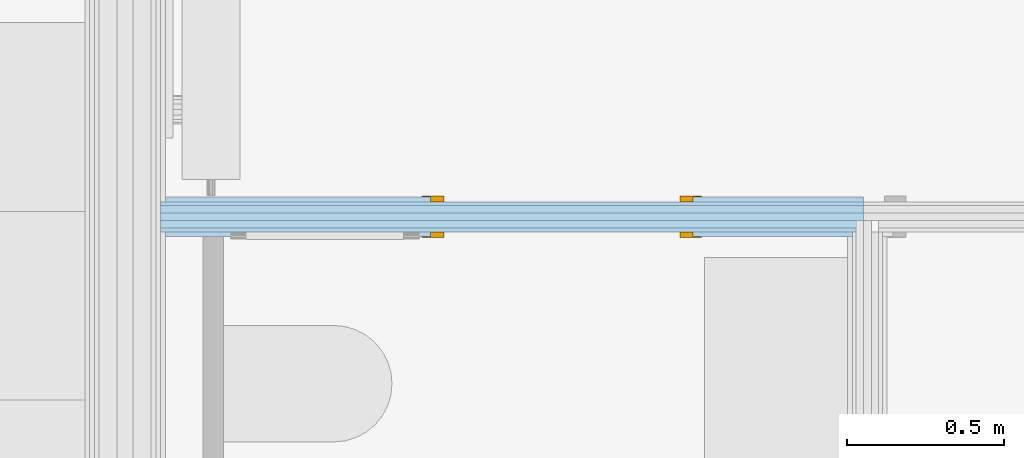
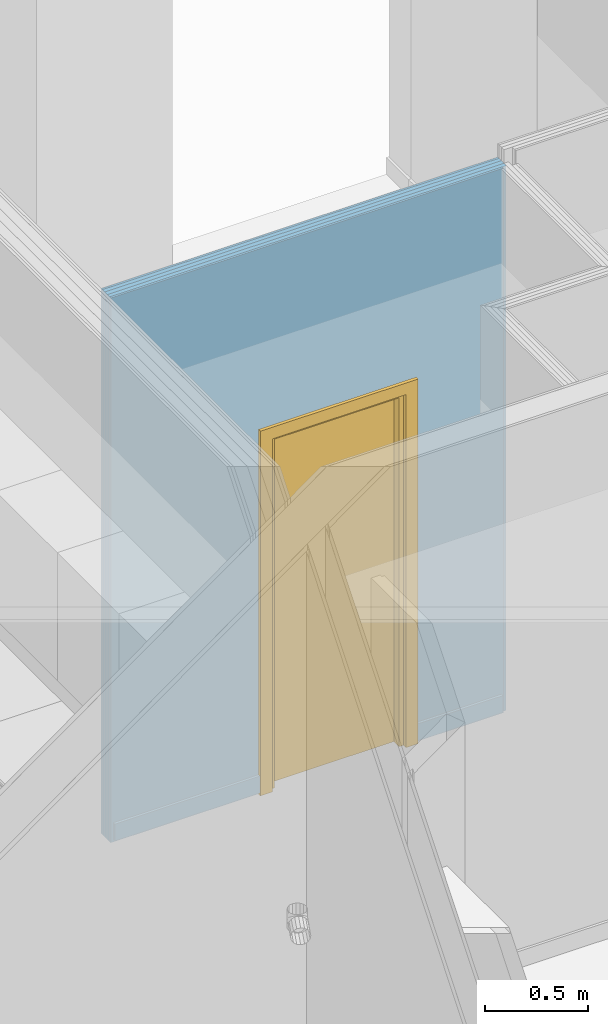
# One storey, part 51 of 64: 1 door, 1 opening, 1 element without a shape of its own, plus 7 elements that do not belong to this part.
"""IFC2X3 building model written with IfcOpenShell, lengths in metres."""

import ifcopenshell
import ifcopenshell.guid

model = None  # the IFC model being written
_history = None  # IfcOwnerHistory: only IFC2X3 demands one
_inside = {}  # id of a spatial element -> (the spatial element, [elements in it])
_under = {}  # id of a project, library or spatial element -> (it, [spatial elements below it])
_declared = {}  # id of a project -> (the project, [libraries it declares])
_typed = {}  # id of a type object -> (the type object, [elements of that type])
_made_of = {}  # id of a material, layer set ... -> (it, [elements and type objects made of it])


def new_model(schema):
    """Start an empty IFC model of exactly this schema.

    Asked for "IFC4X3", IfcOpenShell would pick the latest addendum, in which some entities
    have other attributes; the version numbers below select the first issue.
    IFC2X3 requires an IfcOwnerHistory on every rooted entity: one is made here for all.
    """
    global model, _history
    if schema == "IFC4X3":
        model = ifcopenshell.file(schema_version=(4, 3, 0, 0))
    else:
        model = ifcopenshell.file(schema=schema)
    _inside.clear()
    _under.clear()
    _declared.clear()
    _typed.clear()
    _made_of.clear()
    _history = None
    if model.schema == "IFC2X3":
        org = make("IfcOrganization", Name="unknown")
        user = make(
            "IfcPersonAndOrganization",
            ThePerson=make("IfcPerson", FamilyName="unknown"),
            TheOrganization=org,
        )
        app = make(
            "IfcApplication",
            ApplicationDeveloper=org,
            Version="unknown",
            ApplicationFullName="unknown",
            ApplicationIdentifier="unknown",
        )
        _history = make(
            "IfcOwnerHistory",
            OwningUser=user,
            OwningApplication=app,
            ChangeAction="ADDED",
            CreationDate=0,
        )
    return model


def make(cls, **values):
    """One entity of the class cls with the attributes given. An attribute that is None is left unset."""
    return model.create_entity(
        cls, **{name: value for name, value in values.items() if value is not None}
    )


def entity(cls, *values):
    """Any entity or typed value of the class cls, its attributes in the order of the schema. None: left unset."""
    e = model.create_entity(cls)
    for i, value in enumerate(values):
        if value is not None:
            e[i] = value
    return e


def rooted(cls, **values):
    """An entity with a GlobalId (a new one), such as an element, a storey or a relation."""
    return make(cls, GlobalId=ifcopenshell.guid.new(), OwnerHistory=_history, **values)


def si_unit(unit_type, name, prefix=None):
    """IfcSIUnit, for example si_unit("LENGTHUNIT", "METRE", prefix="MILLI")."""
    return make("IfcSIUnit", UnitType=unit_type, Prefix=prefix, Name=name)


def converted_unit(unit_type, name, factor, base, dimensions=None, offset=None):
    """IfcConversionBasedUnit, such as the inch: factor (a typed value) times the base unit."""
    return make(
        "IfcConversionBasedUnit"
        if offset is None
        else "IfcConversionBasedUnitWithOffset",
        ConversionOffset=offset,
        Dimensions=None
        if dimensions is None
        else entity("IfcDimensionalExponents", *dimensions),
        UnitType=unit_type,
        Name=name,
        ConversionFactor=make(
            "IfcMeasureWithUnit", ValueComponent=factor, UnitComponent=base
        ),
    )


def derived_unit(unit_type, elements):
    """IfcDerivedUnit: a product of units, each with its exponent."""
    return make(
        "IfcDerivedUnit",
        Elements=[
            make("IfcDerivedUnitElement", Unit=unit, Exponent=power)
            for unit, power in elements
        ],
        UnitType=unit_type,
    )


def money_unit(currency):
    """IfcMonetaryUnit."""
    return make("IfcMonetaryUnit", Currency=currency)


def assignment(units):
    """IfcUnitAssignment: the units of a project."""
    return None if units is None else make("IfcUnitAssignment", Units=units)


def point(xyz):
    """IfcCartesianPoint."""
    return None if xyz is None else make("IfcCartesianPoint", Coordinates=xyz)


def direction(xyz):
    """IfcDirection."""
    return None if xyz is None else make("IfcDirection", DirectionRatios=xyz)


def frame(location, z_axis=None, x_axis=None):
    """IfcAxis2Placement3D, a coordinate frame: its origin and axes. An axis left out is left unset."""
    return make(
        "IfcAxis2Placement3D",
        Location=point(location),
        Axis=direction(z_axis),
        RefDirection=direction(x_axis),
    )


def frame_2d(location, x_axis=None):
    """IfcAxis2Placement2D, a coordinate frame in the plane: its origin and x axis."""
    return make(
        "IfcAxis2Placement2D", Location=point(location), RefDirection=direction(x_axis)
    )


def origin_with_axes():
    """The frame at (0, 0, 0) with the z axis (0, 0, 1) and the x axis (1, 0, 0) written out."""
    return frame((0.0, 0.0, 0.0), z_axis=(0.0, 0.0, 1.0), x_axis=(1.0, 0.0, 0.0))


def place(relative_to, where):
    """IfcLocalPlacement: puts the frame where relative to a parent placement (None: the world)."""
    return make(
        "IfcLocalPlacement", PlacementRelTo=relative_to, RelativePlacement=where
    )


def context(
    kind, dimensions, precision=None, world=None, true_north=None, identifier=None
):
    """IfcGeometricRepresentationContext, for example the 3D "Model" context."""
    return make(
        "IfcGeometricRepresentationContext",
        ContextIdentifier=identifier,
        ContextType=kind,
        CoordinateSpaceDimension=dimensions,
        Precision=precision,
        WorldCoordinateSystem=world,
        TrueNorth=true_north,
    )


def subcontext(parent, identifier, kind, view, scale=None):
    """IfcGeometricRepresentationSubContext, for example "Body" below "Model"."""
    return make(
        "IfcGeometricRepresentationSubContext",
        ContextIdentifier=identifier,
        ContextType=kind,
        ParentContext=parent,
        TargetScale=scale,
        TargetView=view,
    )


def project(units=None, contexts=None):
    """IfcProject with its units and contexts."""
    return rooted(
        "IfcProject",
        Name="project",
        RepresentationContexts=contexts,
        UnitsInContext=assignment(units),
    )


def spatial(cls, under=None, at=None, **own):
    """A site, building, storey or space (cls), placed at a placement, below another one or the project."""
    s = rooted(cls, ObjectPlacement=at, **own)
    if under is not None:
        _under.setdefault(under.id(), (under, []))[1].append(s)
    return s


def profile(cls, at=None, kind="AREA", **sizes):
    """A parametric profile (cls). Its sizes go by their IFC names, for example OverallWidth=200.0."""
    return make(cls, ProfileType=kind, Position=at, **sizes)


def rectangle(**sizes):
    """IfcRectangleProfileDef."""
    return profile("IfcRectangleProfileDef", **sizes)


def extrude(swept, where, along, depth):
    """IfcExtrudedAreaSolid: the profile swept, set in the frame where, extruded along a direction by depth."""
    return make(
        "IfcExtrudedAreaSolid",
        SweptArea=swept,
        Position=where,
        ExtrudedDirection=direction(along),
        Depth=depth,
    )


def faces_of(points, faces, orient=None, outer=None):
    """IfcFace entities. A face is a list of loops; a loop is a list of indices into points, from 0.

    orient and outer hold one flag for each loop. By default every Orientation is true, the
    first loop of a face is its IfcFaceOuterBound and the others are IfcFaceBound.
    """
    made = []
    for i, loops in enumerate(faces):
        bounds = []
        for j, loop in enumerate(loops):
            is_outer = j == 0 if outer is None else outer[i][j]
            bounds.append(
                make(
                    "IfcFaceOuterBound" if is_outer else "IfcFaceBound",
                    Bound=make("IfcPolyLoop", Polygon=[points[k] for k in loop]),
                    Orientation=True if orient is None else orient[i][j],
                )
            )
        made.append(make("IfcFace", Bounds=bounds))
    return made


def faceted_brep(points, faces, orient=None, outer=None, voids=None):
    """IfcFacetedBrep: a solid bounded by flat faces; with voids (closed shells), ...WithVoids."""
    shared = [point(p) for p in points]
    hull = make("IfcClosedShell", CfsFaces=faces_of(shared, faces, orient, outer))
    if voids is None:
        return make("IfcFacetedBrep", Outer=hull)
    return make(
        "IfcFacetedBrepWithVoids",
        Outer=hull,
        Voids=[
            make(cls, CfsFaces=faces_of(shared, fs, o, b)) for cls, fs, o, b in voids
        ],
    )


def shape(context_of_items, identifier, shape_type, items):
    """IfcShapeRepresentation: the items that make up one representation, for example the "Body"."""
    return make(
        "IfcShapeRepresentation",
        ContextOfItems=context_of_items,
        RepresentationIdentifier=identifier,
        RepresentationType=shape_type,
        Items=items,
    )


def material(Name=None, Category=None):
    """IfcMaterial."""
    return make("IfcMaterial", Name=Name, Category=Category)


def made_of(thing, what):
    """Note that an element or type object is made of a material, layer set ...; save() writes the relation."""
    if what is not None:
        _made_of.setdefault(what.id(), (what, []))[1].append(thing)
    return thing


def type_object(cls, material=None, **own):
    """A type object (cls), such as IfcWallType, which elements share."""
    return made_of(rooted(cls, **own), material)


def element(
    cls,
    number,
    at=None,
    inside=None,
    cuts=None,
    type_object=None,
    material=None,
    context=None,
    identifier="Body",
    shape_type=None,
    held_by="IfcProductDefinitionShape",
    body=None,
    shapes=None,
    **own,
):
    """One element of the class cls, such as IfcWall. Its Tag is "e" and its number.

    at: its placement. inside: the storey or other place that contains it. cuts: it is an
    opening in that element (IfcRelVoidsElement). A single representation is given by context,
    identifier, shape_type and body (its items); several are given by shapes. held_by: the class
    of the entity that holds the representations. save() writes the other relations.
    """
    e = rooted(cls, Tag="e%d" % number, ObjectPlacement=at, **own)
    if body is not None:
        shapes = [shape(context, identifier, shape_type, body)]
    if shapes is not None:
        e.Representation = make(held_by, Representations=shapes)
    if inside is not None:
        _inside.setdefault(inside.id(), (inside, []))[1].append(e)
    if cuts is not None:
        rooted(
            "IfcRelVoidsElement", RelatingBuildingElement=cuts, RelatedOpeningElement=e
        )
    if type_object is not None:
        _typed.setdefault(type_object.id(), (type_object, []))[1].append(e)
    return made_of(e, material)


def fill(opening, filler):
    """IfcRelFillsElement: the door or window that sits in an opening."""
    return rooted(
        "IfcRelFillsElement",
        RelatingOpeningElement=opening,
        RelatedBuildingElement=filler,
    )


def aggregate(whole, parts):
    """IfcRelAggregates: a whole, such as a stair, and the parts it consists of."""
    return rooted("IfcRelAggregates", RelatingObject=whole, RelatedObjects=parts)


def save(model, path):
    """Write the relations noted so far, then the file.

    IfcRelAggregates (storeys below a building ...), IfcRelContainedInSpatialStructure (elements
    in a storey), IfcRelDefinesByType, IfcRelAssociatesMaterial and IfcRelDeclares: one each for
    every whole, place, type object, material and project.
    """
    for whole, parts in _under.values():
        aggregate(whole, parts)
    for where, things in _inside.values():
        rooted(
            "IfcRelContainedInSpatialStructure",
            RelatedElements=things,
            RelatingStructure=where,
        )
    for kind, things in _typed.values():
        rooted("IfcRelDefinesByType", RelatedObjects=things, RelatingType=kind)
    for what, things in _made_of.values():
        rooted("IfcRelAssociatesMaterial", RelatedObjects=things, RelatingMaterial=what)
    for by, libraries in _declared.values():
        rooted("IfcRelDeclares", RelatingContext=by, RelatedDefinitions=libraries)
    model.write(path)


model = new_model("IFC2X3")

# Units and contexts
model_context = context("Model", 3, precision=1e-05, world=origin_with_axes(), true_north=direction((0.0, 1.0)))
body_context = subcontext(model_context, "Body", "Model", "MODEL_VIEW", scale=1.0)
ifc_project = project(units=[si_unit("LENGTHUNIT", "METRE"), si_unit("AREAUNIT", "SQUARE_METRE"), si_unit("VOLUMEUNIT", "CUBIC_METRE"), si_unit("ABSORBEDDOSEUNIT", "GRAY"), si_unit("AMOUNTOFSUBSTANCEUNIT", "MOLE"), si_unit("DOSEEQUIVALENTUNIT", "SIEVERT"), si_unit("ELECTRICCAPACITANCEUNIT", "FARAD"), si_unit("ELECTRICCHARGEUNIT", "COULOMB"), si_unit("ELECTRICCONDUCTANCEUNIT", "SIEMENS"), si_unit("ELECTRICCURRENTUNIT", "AMPERE"), si_unit("ELECTRICRESISTANCEUNIT", "OHM"), si_unit("ELECTRICVOLTAGEUNIT", "VOLT"), si_unit("ENERGYUNIT", "JOULE"), si_unit("FORCEUNIT", "NEWTON"), si_unit("FREQUENCYUNIT", "HERTZ"), si_unit("ILLUMINANCEUNIT", "LUX"), si_unit("INDUCTANCEUNIT", "HENRY"), si_unit("LUMINOUSFLUXUNIT", "LUMEN"), si_unit("LUMINOUSINTENSITYUNIT", "CANDELA"), si_unit("MAGNETICFLUXDENSITYUNIT", "TESLA"), si_unit("MAGNETICFLUXUNIT", "WEBER"), si_unit("MASSUNIT", "GRAM"), converted_unit("PLANEANGLEUNIT", "degree", entity("IfcReal", 0.0174532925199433), si_unit("PLANEANGLEUNIT", "RADIAN"), dimensions=[0, 0, 0, 0, 0, 0, 0]), si_unit("POWERUNIT", "WATT"), si_unit("PRESSUREUNIT", "PASCAL"), si_unit("RADIOACTIVITYUNIT", "BECQUEREL"), si_unit("SOLIDANGLEUNIT", "STERADIAN"), si_unit("THERMODYNAMICTEMPERATUREUNIT", "KELVIN"), si_unit("TIMEUNIT", "SECOND"), derived_unit("ACCELERATIONUNIT", [(si_unit("LENGTHUNIT", "METRE"), 1), (si_unit("TIMEUNIT", "SECOND"), -2)]), derived_unit("ANGULARVELOCITYUNIT", [(converted_unit("PLANEANGLEUNIT", "degree", entity("IfcReal", 0.0174532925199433), si_unit("PLANEANGLEUNIT", "RADIAN"), dimensions=[0, 0, 0, 0, 0, 0, 0]), 1), (si_unit("TIMEUNIT", "SECOND"), -1)]), derived_unit("CURVATUREUNIT", [(converted_unit("PLANEANGLEUNIT", "degree", entity("IfcReal", 0.0174532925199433), si_unit("PLANEANGLEUNIT", "RADIAN"), dimensions=[0, 0, 0, 0, 0, 0, 0]), 1), (si_unit("LENGTHUNIT", "METRE"), -1)]), derived_unit("DYNAMICVISCOSITYUNIT", [(si_unit("PRESSUREUNIT", "PASCAL"), 1), (si_unit("TIMEUNIT", "SECOND"), 1)]), derived_unit("HEATFLUXDENSITYUNIT", [(si_unit("POWERUNIT", "WATT"), 1), (si_unit("LENGTHUNIT", "METRE"), -2)]), derived_unit("HEATINGVALUEUNIT", [(si_unit("ENERGYUNIT", "JOULE"), 1), (si_unit("MASSUNIT", "GRAM"), -1)]), derived_unit("INTEGERCOUNTRATEUNIT", [(si_unit("TIMEUNIT", "SECOND"), -1)]), derived_unit("IONCONCENTRATIONUNIT", [(si_unit("MASSUNIT", "GRAM"), 1), (si_unit("VOLUMEUNIT", "CUBIC_METRE"), -1)]), derived_unit("ISOTHERMALMOISTURECAPACITYUNIT", [(si_unit("VOLUMEUNIT", "CUBIC_METRE"), 1), (si_unit("MASSUNIT", "GRAM"), -1)]), derived_unit("KINEMATICVISCOSITYUNIT", [(si_unit("AREAUNIT", "SQUARE_METRE"), 1), (si_unit("TIMEUNIT", "SECOND"), -1)]), derived_unit("LINEARFORCEUNIT", [(si_unit("FORCEUNIT", "NEWTON"), 1), (si_unit("LENGTHUNIT", "METRE"), -1)]), derived_unit("LINEARMOMENTUNIT", [(si_unit("FORCEUNIT", "NEWTON"), 1), (si_unit("LENGTHUNIT", "METRE"), -1)]), derived_unit("LINEARSTIFFNESSUNIT", [(si_unit("FORCEUNIT", "NEWTON"), 1), (si_unit("LENGTHUNIT", "METRE"), -1)]), derived_unit("LINEARVELOCITYUNIT", [(si_unit("LENGTHUNIT", "METRE"), 1), (si_unit("TIMEUNIT", "SECOND"), -1)]), derived_unit("LUMINOUSINTENSITYDISTRIBUTIONUNIT", [(si_unit("LUMINOUSINTENSITYUNIT", "CANDELA"), 1), (si_unit("LUMINOUSFLUXUNIT", "LUMEN"), -1)]), derived_unit("MASSDENSITYUNIT", [(si_unit("MASSUNIT", "GRAM"), 1), (si_unit("VOLUMEUNIT", "CUBIC_METRE"), -1)]), derived_unit("MASSFLOWRATEUNIT", [(si_unit("MASSUNIT", "GRAM"), 1), (si_unit("TIMEUNIT", "SECOND"), -1)]), derived_unit("MASSPERLENGTHUNIT", [(si_unit("MASSUNIT", "GRAM"), 1), (si_unit("LENGTHUNIT", "METRE"), -1)]), derived_unit("MODULUSOFELASTICITYUNIT", [(si_unit("FORCEUNIT", "NEWTON"), 1), (si_unit("AREAUNIT", "SQUARE_METRE"), -1)]), derived_unit("MODULUSOFLINEARSUBGRADEREACTIONUNIT", [(si_unit("FORCEUNIT", "NEWTON"), 1), (si_unit("LENGTHUNIT", "METRE"), -2)]), derived_unit("MODULUSOFROTATIONALSUBGRADEREACTIONUNIT", [(si_unit("FORCEUNIT", "NEWTON"), 1), (si_unit("LENGTHUNIT", "METRE"), 1)]), derived_unit("MODULUSOFSUBGRADEREACTIONUNIT", [(si_unit("FORCEUNIT", "NEWTON"), 1), (si_unit("VOLUMEUNIT", "CUBIC_METRE"), -1)]), derived_unit("MOISTUREDIFFUSIVITYUNIT", [(si_unit("VOLUMEUNIT", "CUBIC_METRE"), 1), (si_unit("TIMEUNIT", "SECOND"), -1)]), derived_unit("MOLECULARWEIGHTUNIT", [(si_unit("MASSUNIT", "GRAM"), 1), (si_unit("AMOUNTOFSUBSTANCEUNIT", "MOLE"), -1)]), derived_unit("PLANARFORCEUNIT", [(si_unit("FORCEUNIT", "NEWTON"), 1), (si_unit("LENGTHUNIT", "METRE"), -2)]), derived_unit("ROTATIONALFREQUENCYUNIT", [(si_unit("TIMEUNIT", "SECOND"), -1)]), derived_unit("ROTATIONALMASSUNIT", [(si_unit("MASSUNIT", "GRAM"), 1), (si_unit("LENGTHUNIT", "METRE"), 2)]), derived_unit("ROTATIONALSTIFFNESSUNIT", [(si_unit("FORCEUNIT", "NEWTON"), 1), (si_unit("LENGTHUNIT", "METRE"), 1), (converted_unit("PLANEANGLEUNIT", "degree", entity("IfcReal", 0.0174532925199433), si_unit("PLANEANGLEUNIT", "RADIAN"), dimensions=[0, 0, 0, 0, 0, 0, 0]), -1)]), derived_unit("SECTIONAREAINTEGRALUNIT", [(si_unit("LENGTHUNIT", "METRE"), 5)]), derived_unit("SECTIONMODULUSUNIT", [(si_unit("LENGTHUNIT", "METRE"), 3)]), derived_unit("SHEARMODULUSUNIT", [(si_unit("FORCEUNIT", "NEWTON"), 1), (si_unit("AREAUNIT", "SQUARE_METRE"), -1)]), derived_unit("SOUNDPOWERUNIT", [(si_unit("ENERGYUNIT", "JOULE"), 1), (si_unit("TIMEUNIT", "SECOND"), -1)]), derived_unit("SPECIFICHEATCAPACITYUNIT", [(si_unit("FORCEUNIT", "NEWTON"), 1), (si_unit("MASSUNIT", "GRAM"), -1), (si_unit("THERMODYNAMICTEMPERATUREUNIT", "KELVIN"), -1)]), derived_unit("TEMPERATUREGRADIENTUNIT", [(si_unit("THERMODYNAMICTEMPERATUREUNIT", "KELVIN"), 1), (si_unit("LENGTHUNIT", "METRE"), -1)]), derived_unit("THERMALADMITTANCEUNIT", [(si_unit("POWERUNIT", "WATT"), 1), (si_unit("AREAUNIT", "SQUARE_METRE"), -1), (si_unit("THERMODYNAMICTEMPERATUREUNIT", "KELVIN"), -1)]), derived_unit("THERMALCONDUCTANCEUNIT", [(si_unit("POWERUNIT", "WATT"), 1), (si_unit("LENGTHUNIT", "METRE"), -1), (si_unit("THERMODYNAMICTEMPERATUREUNIT", "KELVIN"), -1)]), derived_unit("THERMALEXPANSIONCOEFFICIENTUNIT", [(si_unit("THERMODYNAMICTEMPERATUREUNIT", "KELVIN"), -1)]), derived_unit("THERMALRESISTANCEUNIT", [(si_unit("AREAUNIT", "SQUARE_METRE"), 1), (si_unit("POWERUNIT", "WATT"), -1)]), derived_unit("THERMALTRANSMITTANCEUNIT", [(si_unit("POWERUNIT", "WATT"), 1), (si_unit("AREAUNIT", "SQUARE_METRE"), -1), (si_unit("THERMODYNAMICTEMPERATUREUNIT", "KELVIN"), -1)]), derived_unit("TORQUEUNIT", [(si_unit("FORCEUNIT", "NEWTON"), 1), (si_unit("LENGTHUNIT", "METRE"), 1)]), derived_unit("VAPORPERMEABILITYUNIT", [(si_unit("MASSUNIT", "GRAM"), 1), (si_unit("TIMEUNIT", "SECOND"), -1)]), derived_unit("VOLUMETRICFLOWRATEUNIT", [(si_unit("VOLUMEUNIT", "CUBIC_METRE"), 1), (si_unit("TIMEUNIT", "SECOND"), -1)]), derived_unit("WARPINGCONSTANTUNIT", [(si_unit("LENGTHUNIT", "METRE"), 6)]), derived_unit("WARPINGMOMENTUNIT", [(si_unit("FORCEUNIT", "NEWTON"), 1), (si_unit("LENGTHUNIT", "METRE"), 2)]), money_unit("GBP")], contexts=[model_context])

# Site, building, storey, space
site_placement = place(None, origin_with_axes())
site = spatial("IfcSite", under=ifc_project, at=site_placement, Name="Site", CompositionType="ELEMENT")
building_placement = place(site_placement, origin_with_axes())
building = spatial("IfcBuilding", under=site, at=building_placement, Name="Building01", CompositionType="ELEMENT")
storey_placement = place(building_placement, frame((0.0, 0.0, 8.64), z_axis=(0.0, 0.0, 1.0), x_axis=(1.0, 0.0, 0.0)))
storey = spatial("IfcBuildingStorey", under=building, at=storey_placement, Name="2F", CompositionType="ELEMENT", Elevation=8.64)
space_placement = place(storey_placement, frame((15.83, 8.82, 0.017975), z_axis=(0.0, 0.0, 1.0), x_axis=(0.0, -1.0, 0.0)))
space = spatial("IfcSpace", under=storey, at=space_placement, Name="09", CompositionType="ELEMENT", InteriorOrExteriorSpace="NOTDEFINED")

# Door
ifc_material_1 = material(Name="A_BSUK_Doors")
door_style = type_object("IfcDoorStyle", Name="A-Doors-SingleFlush", ConstructionType="USERDEFINED", OperationType="SINGLE_SWING_LEFT", ParameterTakesPrecedence=False, Sizeable=False)
wall_placement = place(storey_placement, frame((17.94, 10.63, 0.0), z_axis=(0.0, 0.0, 1.0), x_axis=(-1.0, 0.0, 0.0)))
opening_placement = place(wall_placement, frame((0.540552, -0.05, 0.0), z_axis=(0.0, 0.0, 1.0), x_axis=(1.0, 0.0, 0.0)))
door_placement = place(opening_placement, frame((0.792, 0.015, 0.0), z_axis=(0.0, 0.0, 1.0), x_axis=(-1.0, 0.0, 0.0)))
door = element("IfcDoor", 1, at=door_placement, inside=space, type_object=door_style, material=ifc_material_1, Name="2.05", ObjectType="A-Doors-SingleFlush", OverallHeight=2.142, OverallWidth=0.834000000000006, context=body_context, shape_type="Brep", body=[
    faceted_brep([(0.0, -0.114, 2.1), (0.75, -0.114, 2.1), (0.75, -0.114, 0.0), (0.819, -0.114, 0.0), (0.819, -0.114, 2.169), (-0.069, -0.114, 2.169), (-0.069, -0.114, 0.0), (0.0, -0.114, 0.0), (0.819, -0.095, 2.169), (0.819, -0.095, 0.0), (-0.069, -0.095, 0.0), (-0.069, -0.095, 2.169), (-0.042, -0.095, 0.0), (-0.042, 0.0, 0.0), (-0.069, 0.0, 0.0), (-0.069, 0.019, 0.0), (0.0, 0.019, 0.0), (0.0, 0.019, 2.1), (0.75, 0.019, 2.1), (-0.069, 0.019, 2.169), (0.819, 0.019, 2.169), (0.819, 0.019, 0.0), (0.75, 0.019, 0.0), (-0.069, 0.0, 2.169), (-0.042, 0.0, 2.142), (-0.042, -0.095, 2.142), (0.792, 0.0, 2.142), (0.792, -0.095, 2.142), (0.792, -0.095, 0.0), (0.792, 0.0, 0.0), (0.819, 0.0, 0.0), (0.819, 0.0, 2.169)], [[[0, 1, 2, 3, 4, 5, 6, 7]], [[8, 4, 3, 9]], [[10, 6, 5, 11]], [[11, 5, 4, 8]], [[7, 6, 10, 12, 13, 14, 15, 16]], [[7, 16, 17, 0]], [[0, 17, 18, 1]], [[17, 16, 15, 19, 20, 21, 22, 18]], [[1, 18, 22, 2]], [[14, 23, 19, 15]], [[24, 13, 12, 25]], [[26, 24, 25, 27]], [[11, 8, 9, 28, 27, 25, 12, 10]], [[27, 28, 29, 26]], [[26, 29, 30, 31, 23, 14, 13, 24]], [[22, 21, 30, 29, 28, 9, 3, 2]], [[30, 21, 20, 31]], [[31, 20, 19, 23]]]),
    faceted_brep([(0.75, -0.09, 0.0), (0.75, -0.04, 0.0), (0.75, -0.04, 2.1), (0.75, -0.09, 2.1), (0.025, -0.09, 2.075), (0.725, -0.09, 2.075), (0.725, -0.09, 0.0), (0.0, -0.09, 2.1), (0.0, -0.09, 0.0), (0.025, -0.09, 0.0), (0.0, -0.04, 0.0), (0.025, -0.04, 0.0), (0.0, -0.04, 2.1), (0.025, -0.04, 2.075), (0.725, -0.04, 0.0), (0.725, -0.04, 2.075)], [[[0, 1, 2, 3]], [[4, 5, 6, 0, 3, 7, 8, 9]], [[9, 8, 10, 11]], [[3, 2, 12, 7]], [[7, 12, 10, 8]], [[13, 11, 10, 12, 2, 1, 14, 15]], [[5, 15, 14, 6]], [[14, 1, 0, 6]], [[9, 11, 13, 4]], [[4, 13, 15, 5]]]),
    faceted_brep([(0.0, -0.04, 2.1), (0.0, 0.0, 2.1), (0.0, 0.0, 0.0), (0.0, -0.04, 0.0), (0.75, -0.04, 0.0), (0.75, 0.0, 0.0), (0.75, 0.0, 2.1), (0.75, -0.04, 2.1)], [[[0, 1, 2, 3]], [[4, 5, 6, 7]], [[3, 2, 5, 4]], [[3, 4, 7, 0]], [[7, 6, 1, 0]], [[1, 6, 5, 2]]]),
])

# Wall, opening
wall_type = type_object("IfcWallType", Name="SHE_A-Walls_Type05a_Partition_95mm_tall", PredefinedType="NOTDEFINED")
wall = element("IfcWall", 2, at=wall_placement, inside=storey, type_object=wall_type, Name="5A", ObjectType="SHE_A-Walls_Type05a_Partition_95mm_tall")
opening = element("IfcOpeningElement", 3, at=opening_placement, cuts=wall, Name="Opening", ObjectType="Opening", context=body_context, shape_type="SweptSolid", body=[
    extrude(rectangle(XDim=0.834, YDim=2.142, at=frame_2d((-0.417, 1.071), x_axis=(-1.0, 0.0))), frame((0.0, 0.0, 0.0), z_axis=(0.0, 1.0, 0.0), x_axis=(-1.0, 0.0, 0.0)), (0.0, 0.0, 1.0), 0.125),
])

fill(opening, door)

# Building element part
ifc_material_2 = material(Name="A_BSUK_Walls_Timber")
placement = place(wall_placement, origin_with_axes())
building_element_part_1 = element("IfcBuildingElementPart", 4, at=placement, material=ifc_material_2, Name="1", context=body_context, shape_type="SweptSolid", body=[
    extrude(rectangle(XDim=2.216868, YDim=0.015, at=frame_2d((1.108434, -0.0425), x_axis=(-1.0, 0.0))), frame((0.0, 0.0, 0.015), z_axis=(0.0, 0.0, 1.0), x_axis=(1.0, 0.0, 0.0)), (0.0, 0.0, 1.0), 0.1),
])

ifc_material_3 = material(Name="A_BSUK_WallInternal_Finishes_Plasterboard")
building_element_part_2 = element("IfcBuildingElementPart", 5, at=placement, material=ifc_material_3, Name="2", context=body_context, shape_type="SweptSolid", body=[
    extrude(rectangle(XDim=2.231868, YDim=0.012, at=frame_2d((1.115934, -0.029), x_axis=(-1.0, 0.0))), origin_with_axes(), (0.0, 0.0, 1.0), 3.24),
])

ifc_material_4 = material(Name="Air Cavity")
building_element_part_3 = element("IfcBuildingElementPart", 6, at=placement, material=ifc_material_4, Name="3", context=body_context, shape_type="SweptSolid", body=[
    extrude(rectangle(XDim=2.231868, YDim=0.023, at=frame_2d((1.115934, -0.0115), x_axis=(-1.0, 0.0))), origin_with_axes(), (0.0, 0.0, 1.0), 3.24),
])

ifc_material_5 = material(Name="A_BSUK_Insulation")
building_element_part_4 = element("IfcBuildingElementPart", 7, at=placement, material=ifc_material_5, Name="4", context=body_context, shape_type="SweptSolid", body=[
    extrude(rectangle(XDim=2.231868, YDim=0.025, at=frame_2d((1.115934, 0.0125), x_axis=(-1.0, 0.0))), origin_with_axes(), (0.0, 0.0, 1.0), 3.24),
])

building_element_part_5 = element("IfcBuildingElementPart", 8, at=placement, material=ifc_material_4, Name="5", context=body_context, shape_type="SweptSolid", body=[
    extrude(rectangle(XDim=2.231868, YDim=0.023, at=frame_2d((1.115934, 0.0365), x_axis=(-1.0, 0.0))), origin_with_axes(), (0.0, 0.0, 1.0), 3.24),
])

building_element_part_6 = element("IfcBuildingElementPart", 9, at=placement, material=ifc_material_3, Name="6", context=body_context, shape_type="SweptSolid", body=[
    extrude(rectangle(XDim=2.208868, YDim=0.012, at=frame_2d((1.127434, 0.054), x_axis=(-1.0, 0.0))), origin_with_axes(), (0.0, 0.0, 1.0), 3.24),
])

building_element_part_7 = element("IfcBuildingElementPart", 10, at=placement, material=ifc_material_2, Name="7", context=body_context, shape_type="SweptSolid", body=[
    extrude(rectangle(XDim=2.181868, YDim=0.015, at=frame_2d((1.125934, 0.0675), x_axis=(-1.0, 0.0))), frame((0.0, 0.0, 0.015), z_axis=(0.0, 0.0, 1.0), x_axis=(1.0, 0.0, 0.0)), (0.0, 0.0, 1.0), 0.1),
])

aggregate(wall, [building_element_part_1, building_element_part_2, building_element_part_3, building_element_part_4, building_element_part_5, building_element_part_6, building_element_part_7])

save(model, "model.ifc")
